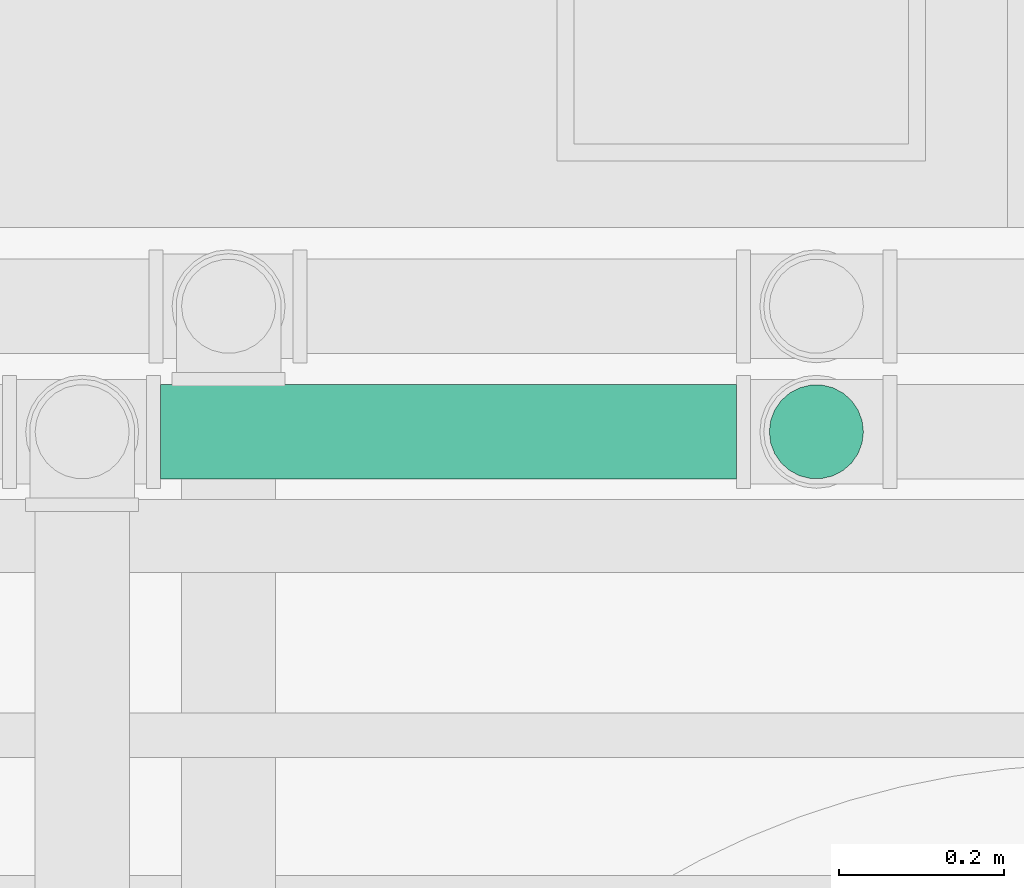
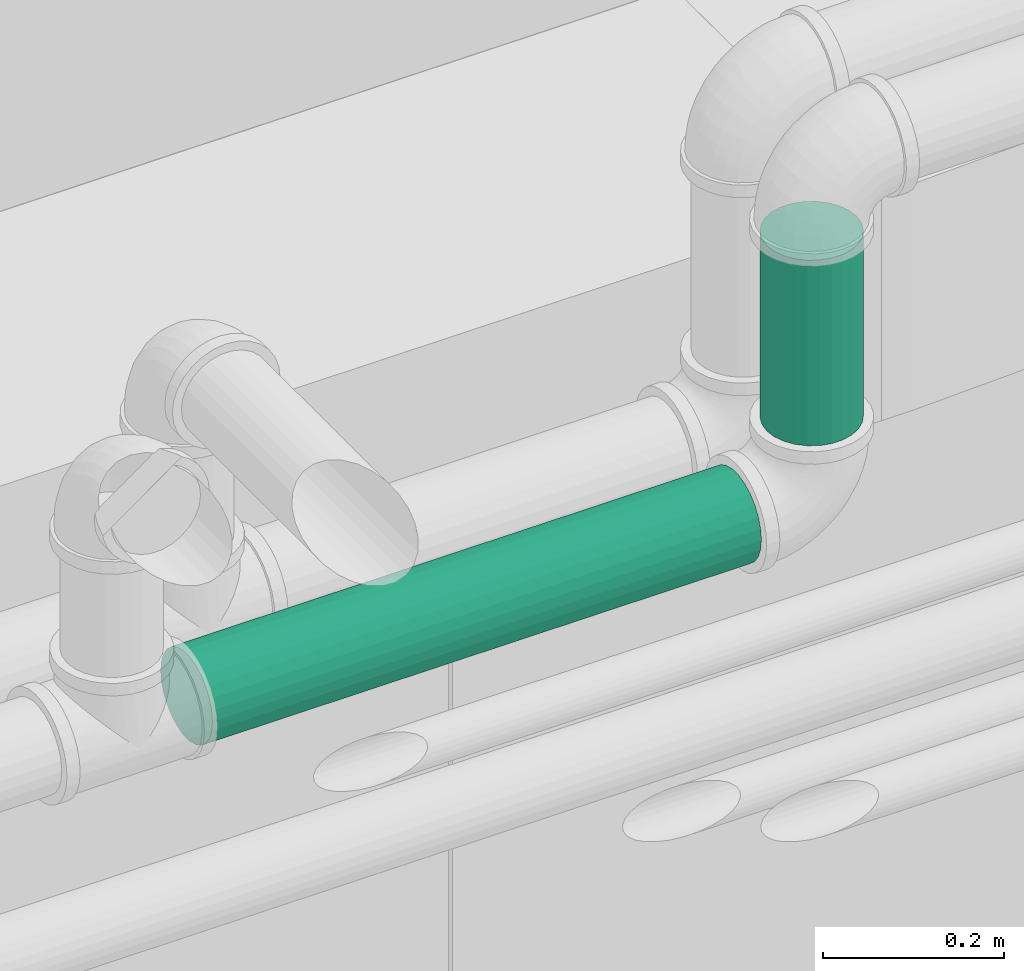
# One storey, part 72 of 108: 2 pipe segments.
"""IFC4 building model written with IfcOpenShell, lengths in feet."""

from ifc_helpers import new_model, entity, si_unit, converted_unit, derived_unit, direction, frame, frame_2d, origin, origin_2d_with_axis, place, context, subcontext, project, spatial, circle, extrude, type_object, element, save


model = new_model("IFC4")

# Units and contexts
model_context = context("Model", 3, precision=0.0001, world=origin(), true_north=direction((6.12303176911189e-17, 1.0)))
body_context = subcontext(model_context, "Body", "Model", "MODEL_VIEW")
ifc_project = project(units=[converted_unit("LENGTHUNIT", "FOOT", entity("IfcRatioMeasure", 0.3048), si_unit("LENGTHUNIT", "METRE"), dimensions=[1, 0, 0, 0, 0, 0, 0]), converted_unit("AREAUNIT", "SQUARE FOOT", entity("IfcRatioMeasure", 0.09290304), si_unit("AREAUNIT", "SQUARE_METRE"), dimensions=[2, 0, 0, 0, 0, 0, 0]), converted_unit("VOLUMEUNIT", "CUBIC FOOT", entity("IfcRatioMeasure", 0.028316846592), si_unit("VOLUMEUNIT", "CUBIC_METRE"), dimensions=[3, 0, 0, 0, 0, 0, 0]), converted_unit("PLANEANGLEUNIT", "DEGREE", entity("IfcRatioMeasure", 0.0174532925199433), si_unit("PLANEANGLEUNIT", "RADIAN"), dimensions=[0, 0, 0, 0, 0, 0, 0]), si_unit("MASSUNIT", "GRAM", prefix="KILO"), derived_unit("MASSDENSITYUNIT", [(si_unit("MASSUNIT", "GRAM", prefix="KILO"), 1), (si_unit("LENGTHUNIT", "METRE"), -3)]), si_unit("TIMEUNIT", "SECOND"), si_unit("FREQUENCYUNIT", "HERTZ"), si_unit("THERMODYNAMICTEMPERATUREUNIT", "DEGREE_CELSIUS"), derived_unit("THERMALTRANSMITTANCEUNIT", [(si_unit("MASSUNIT", "GRAM", prefix="KILO"), 1), (si_unit("THERMODYNAMICTEMPERATUREUNIT", "KELVIN"), -1), (si_unit("TIMEUNIT", "SECOND"), -3)]), derived_unit("VOLUMETRICFLOWRATEUNIT", [(si_unit("LENGTHUNIT", "METRE"), 3), (si_unit("TIMEUNIT", "SECOND"), -1)]), si_unit("ELECTRICCURRENTUNIT", "AMPERE"), si_unit("ELECTRICVOLTAGEUNIT", "VOLT"), si_unit("POWERUNIT", "WATT"), si_unit("FORCEUNIT", "NEWTON"), si_unit("ILLUMINANCEUNIT", "LUX"), si_unit("LUMINOUSFLUXUNIT", "LUMEN"), si_unit("LUMINOUSINTENSITYUNIT", "CANDELA"), derived_unit("USERDEFINED", [(si_unit("MASSUNIT", "GRAM", prefix="KILO"), -1), (si_unit("LENGTHUNIT", "METRE"), -2), (si_unit("TIMEUNIT", "SECOND"), 3), (si_unit("LUMINOUSFLUXUNIT", "LUMEN"), 1)]), derived_unit("LINEARVELOCITYUNIT", [(si_unit("LENGTHUNIT", "METRE"), 1), (si_unit("TIMEUNIT", "SECOND"), -1)]), si_unit("PRESSUREUNIT", "PASCAL"), derived_unit("USERDEFINED", [(si_unit("LENGTHUNIT", "METRE"), -2), (si_unit("MASSUNIT", "GRAM", prefix="KILO"), 1), (si_unit("TIMEUNIT", "SECOND"), -2)])], contexts=[model_context])

# Site, building, storey
site_placement = place(None, origin())
site = spatial("IfcSite", under=ifc_project, at=site_placement, Name="Default", CompositionType="ELEMENT")
building_placement = place(site_placement, origin())
building = spatial("IfcBuilding", under=site, at=building_placement, CompositionType="ELEMENT")
storey_placement = place(building_placement, frame((0.0, 0.0, 168.0)))
storey = spatial("IfcBuildingStorey", under=building, at=storey_placement, Name="Level 15", CompositionType="ELEMENT", Elevation=168.0)

# Pipe segments
pipe_segment_type = type_object("IfcPipeSegmentType", Name="Pipe Types:Hydronic", PredefinedType="NOTDEFINED")
pipe_segment_1_placement = place(storey_placement, frame((-30.9870961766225, 11.4370127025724, 9.34893283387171)))
element("IfcPipeSegment", 1, at=pipe_segment_1_placement, inside=storey, type_object=pipe_segment_type, Name="Pipe Types:Hydronic", ObjectType="Pipe Types:Hydronic", PredefinedType="NOTDEFINED", context=body_context, shape_type="SweptSolid", body=[
    extrude(circle(Radius=0.1875, at=frame_2d((1.77635683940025e-15, 0.0), x_axis=(1.0, 0.0))), frame((0.0, 0.19273383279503, 0.192733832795), z_axis=(1.0, 0.0, 0.0), x_axis=(0.0, -1.0, 0.0)), (0.0, 0.0, 1.0), 2.29438070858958),
])
pipe_segment_2_placement = place(storey_placement, frame((-28.5675065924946, 11.4370127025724, 9.86277343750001)))
element("IfcPipeSegment", 2, at=pipe_segment_2_placement, inside=storey, type_object=pipe_segment_type, Name="Pipe Types:Hydronic", ObjectType="Pipe Types:Hydronic", PredefinedType="NOTDEFINED", context=body_context, shape_type="SweptSolid", body=[
    extrude(circle(Radius=0.1875, at=origin_2d_with_axis()), frame((0.192733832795, 0.192733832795, 0.0), z_axis=(0.0, 0.0, 1.0), x_axis=(-1.0, 0.0, 0.0)), (0.0, 0.0, 1.0), 0.819283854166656),
])

save(model, "model.ifc")
